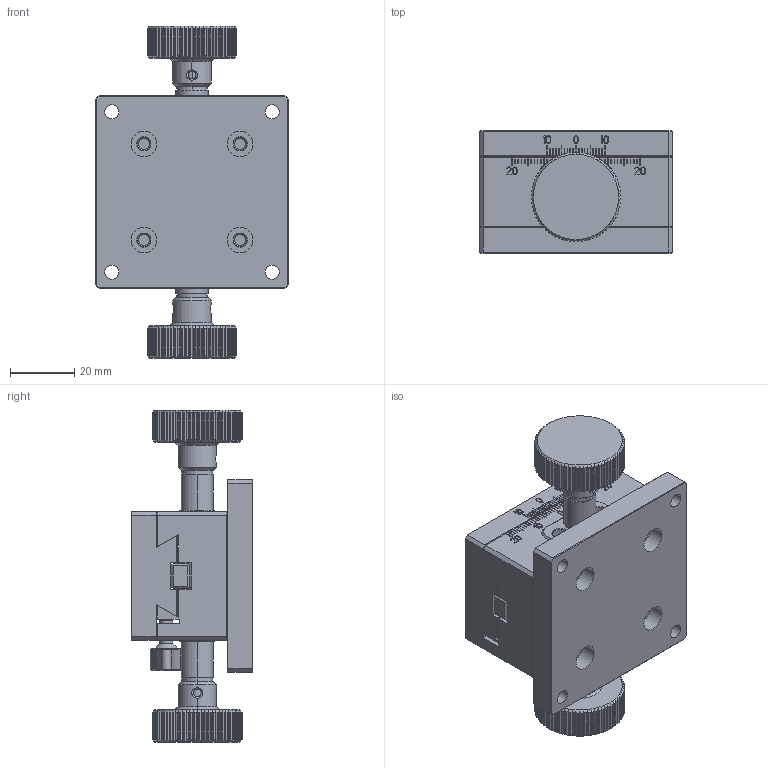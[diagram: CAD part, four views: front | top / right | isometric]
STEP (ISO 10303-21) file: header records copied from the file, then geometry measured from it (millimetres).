
FILE_DESCRIPTION((''),'2;1');
FILE_NAME('ASSY-40-60-ST30WB_ASM','2022-02-24T15:08:15',('windows10'),(''),'CREO PARAMETRIC BY PTC INC, 2018260','CREO PARAMETRIC BY PTC INC, 2018260','');
FILE_SCHEMA(('CONFIG_CONTROL_DESIGN'));
Length unit declared in the file: millimetre
Products named in the file (16): BASE-60; BOTTOM-40-60-W-F; PINION-4-41-W; HOLDER-PINION-16D3; WHASHER-9D6-4D1-1D2; HANDLE-28-19; ASSY-HANDLE-28-51D8-W_ASM; TOP-40-60-M; RACK-8-6-60; 3-8; ASSY-TOP-40-60-M_ASM; STOPPER-A-NEW; LEVER-NEW; ASSY-STOPPER-NEW_ASM; ASSY-40-60-ST30W_ASM; ASSY-40-60-ST30WB_ASM
Assembly tree (19 placements, depth 4):
  ASSY-40-60-ST30WB_ASM
    BASE-60
    ASSY-40-60-ST30W_ASM
      BOTTOM-40-60-W-F
      ASSY-HANDLE-28-51D8-W_ASM
        PINION-4-41-W
        HOLDER-PINION-16D3
        WHASHER-9D6-4D1-1D2
        HANDLE-28-19
      HOLDER-PINION-16D3
      WHASHER-9D6-4D1-1D2
      HANDLE-28-19
      ASSY-TOP-40-60-M_ASM
        TOP-40-60-M
        RACK-8-6-60
        3-8  x2
      ASSY-STOPPER-NEW_ASM
        STOPPER-A-NEW
        LEVER-NEW
Bounding box: 60 x 38 x 103.6 mm (x, y, z)
Volume: 110845.6 mm3; surface area: 46138.7 mm2
Topology: 15 solids, 15 shells, 1944 faces, 5045 edges, 3263 vertices
Faces by surface type: plane 1348, cylinder 384, cone 204, bspline 8
Entity records: 49136 total; most frequent: CARTESIAN_POINT 10092, ORIENTED_EDGE 8150, DIRECTION 7703, EDGE_CURVE 4075, VECTOR 3053, LINE 3053, VERTEX_POINT 2643, AXIS2_PLACEMENT_3D 2325
